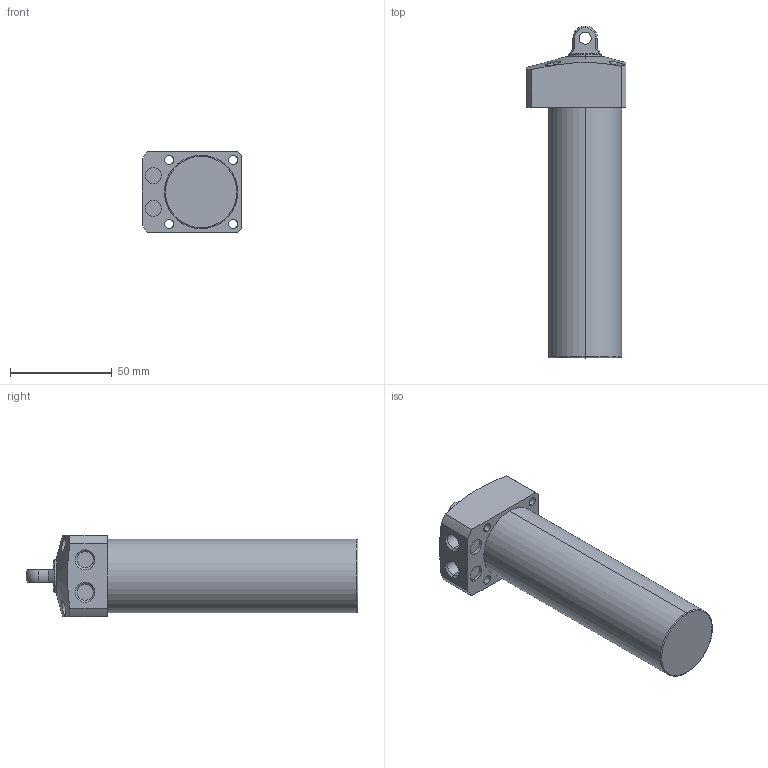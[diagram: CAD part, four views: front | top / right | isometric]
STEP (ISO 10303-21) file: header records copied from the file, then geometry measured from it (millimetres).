
FILE_DESCRIPTION (( 'STEP AP203' ), '1' );
FILE_NAME ('CLL036-CP-0100.STEP', '2017-05-17T06:28:59', ( '' ), ( '' ), 'SwSTEP 2.0', 'SolidWorks 2015', '' );
FILE_SCHEMA (( 'CONFIG_CONTROL_DESIGN' ));
Length unit declared in the file: millimetre
Products named in the file (1): CLL036-CP-0100
Bounding box: 49 x 163 x 40 mm (x, y, z)
Volume: 166587.4 mm3; surface area: 23958.8 mm2
Topology: 1 solids, 1 shells, 67 faces, 162 edges, 105 vertices
Faces by surface type: cylinder 34, plane 21, cone 8, sphere 2, torus 2
Entity records: 2347 total; most frequent: CARTESIAN_POINT 663, DIRECTION 354, ORIENTED_EDGE 316, EDGE_CURVE 158, AXIS2_PLACEMENT_3D 148, VERTEX_POINT 103, EDGE_LOOP 87, CIRCLE 80
